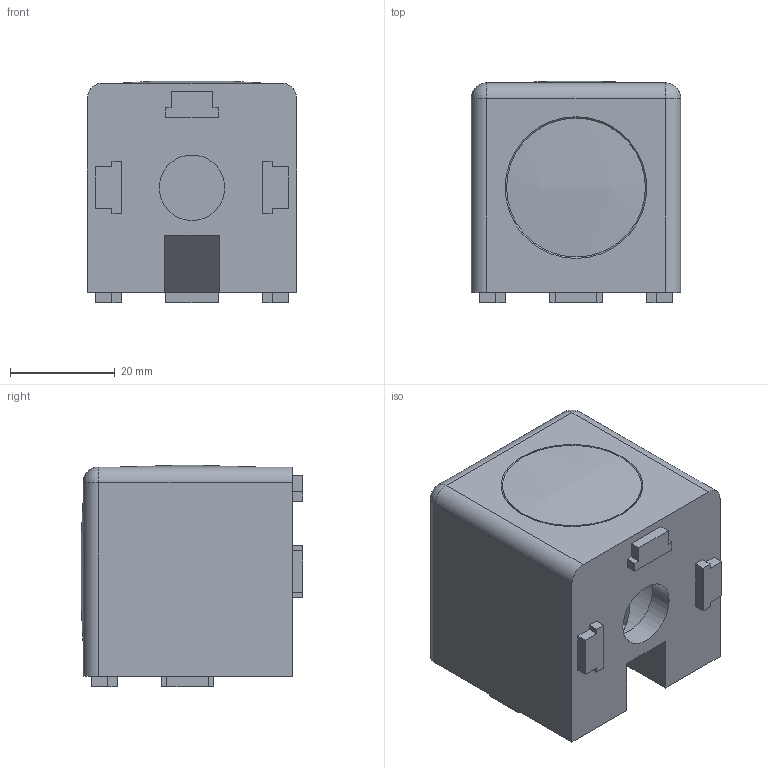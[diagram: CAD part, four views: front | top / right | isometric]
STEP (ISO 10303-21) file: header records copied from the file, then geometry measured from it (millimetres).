
FILE_DESCRIPTION(/* description */ ('STEP AP203'),/* implementation_level */ '2;1');
FILE_NAME(/* name */ 'Cube Corner Bracket - 40 Series - 2 Way.step',/* time_stamp */ '2025-06-29T02:11:42+03:00',/* author */ (''),/* organization */ (''),/* preprocessor_version */ 'ST-DEVELOPER v20.1',/* originating_system */ 'Autodesk Translation Framework v14.10.0.0',/* authorisation */ '');
FILE_SCHEMA (('AUTOMOTIVE_DESIGN { 1 0 10303 214 3 1 1 }'));
Length unit declared in the file: millimetre
Products named in the file (4): 3801.008.100; 3801.008.600(2); 3801.4040_1; 3801.008.103
Assembly tree (4 placements, depth 3):
  3801.008.100
    3801.008.600(2)
      3801.4040_1  x2
      3801.008.103
Bounding box: 40 x 42.38 x 42.38 mm (x, y, z)
Volume: 42913.3 mm3; surface area: 16402 mm2
Topology: 3 solids, 3 shells, 134 faces, 350 edges, 228 vertices
Faces by surface type: plane 69, cylinder 25, cone 18, torus 16, sphere 6
Full cylindrical faces by diameter (mm): 12.5 x2, 22 x2, 24 x2, 26.5 x2
Entity records: 4184 total; most frequent: CARTESIAN_POINT 1399, ORIENTED_EDGE 564, DIRECTION 547, EDGE_CURVE 282, VERTEX_POINT 184, AXIS2_PLACEMENT_3D 183, LINE 181, VECTOR 181
